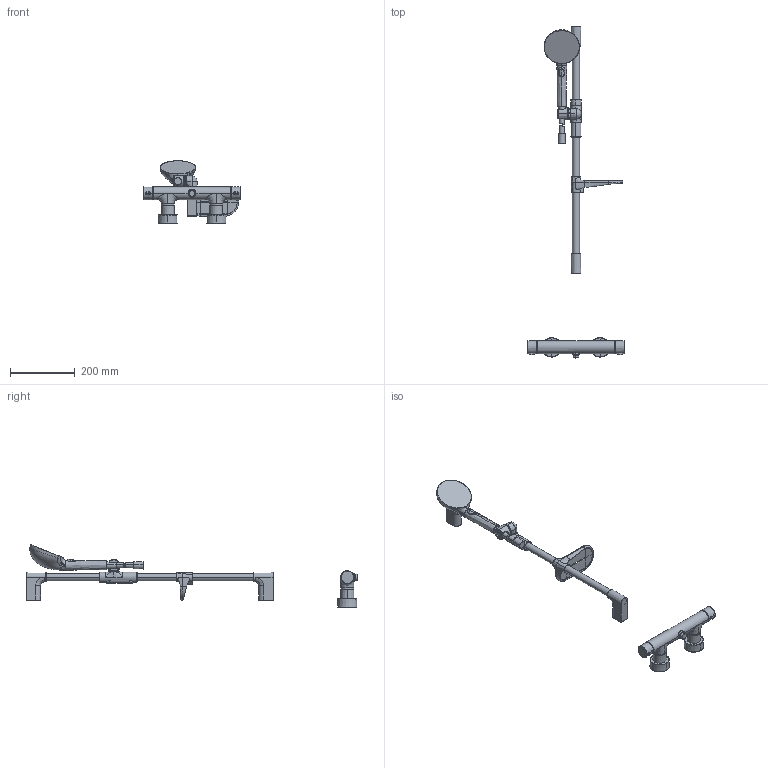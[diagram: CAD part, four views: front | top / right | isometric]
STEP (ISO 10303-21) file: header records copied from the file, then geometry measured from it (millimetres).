
FILE_DESCRIPTION (( 'STEP AP203' ), '1' );
FILE_NAME ('4769(2024).STEP', '2024-03-26T05:09:22', ( '' ), ( '' ), 'SwSTEP 2.0', 'SolidWorks 2016', '' );
FILE_SCHEMA (( 'CONFIG_CONTROL_DESIGN' ));
Length unit declared in the file: millimetre
Products named in the file (1): 4769(2024)
Bounding box: 299.88 x 1029.1 x 193.47 mm (x, y, z)
Volume: 1767182.5 mm3; surface area: 294751.3 mm2
Topology: 22 solids, 22 shells, 576 faces, 1404 edges, 863 vertices
Faces by surface type: bspline 338, plane 74, cylinder 65, cone 56, sphere 22, torus 21
Entity records: 67841 total; most frequent: CARTESIAN_POINT 56709, ORIENTED_EDGE 2774, DIRECTION 1663, EDGE_CURVE 1387, VERTEX_POINT 863, AXIS2_PLACEMENT_3D 732, B_SPLINE_CURVE_WITH_KNOTS 594, EDGE_LOOP 586
